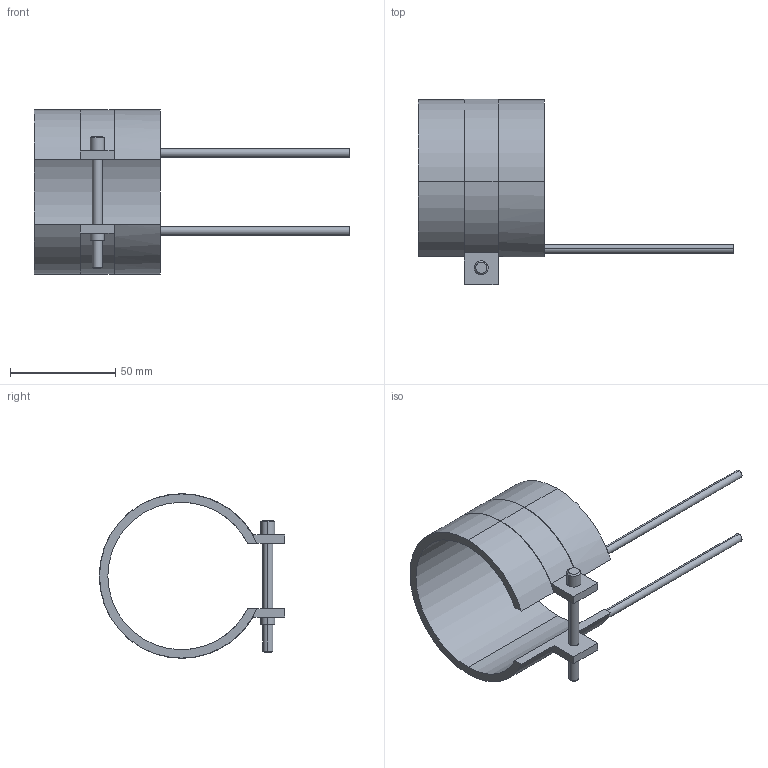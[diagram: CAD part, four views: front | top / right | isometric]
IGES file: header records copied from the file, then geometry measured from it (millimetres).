
Start section: START RECORD GO HERE.
Global section: file name: 14070060.igs; native system: DASSAULT SYSTEMES CATIA V5 R20 - www.3ds.com; preprocessor: CATIA Version 5 Release 20 ; author: Utente; organization: NB04-ASUS; date: 20210403.104803; units: millimetre
Bounding box: 150 x 88.1 x 78.2 mm (x, y, z)
Surface area: 30443.3 mm2 (no closed solid volume)
Topology: 0 solids, 0 shells, 45 faces, 232 edges, 232 vertices
Faces by surface type: revolution 28, plane 17
